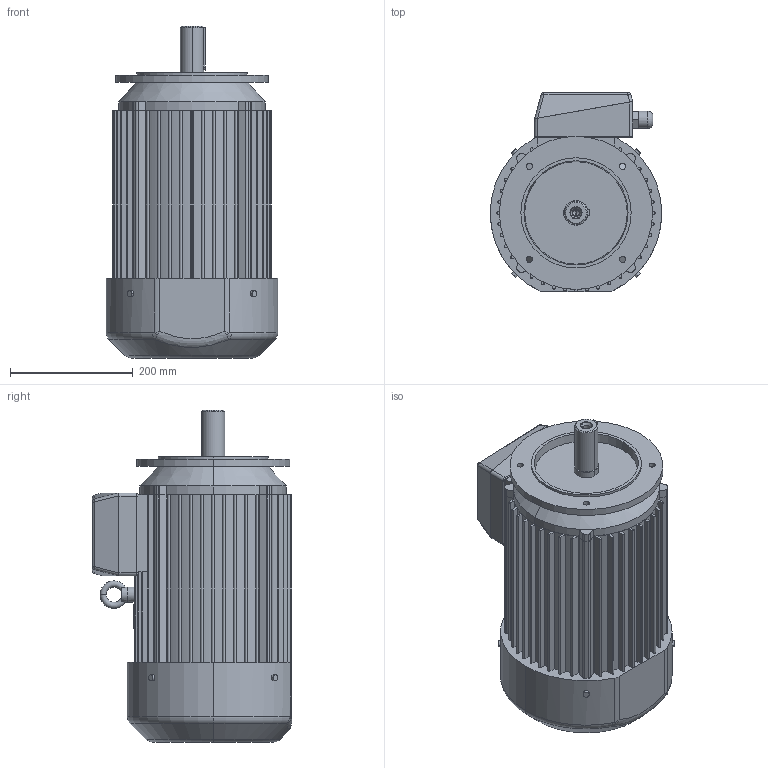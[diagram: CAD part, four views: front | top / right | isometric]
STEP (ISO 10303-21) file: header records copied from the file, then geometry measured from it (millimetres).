
FILE_DESCRIPTION (( 'STEP AP203' ), '1' );
FILE_NAME ('3SIEK132S;M-B14-C1.STEP', '2015-01-09T07:21:33', ( 'Indukta' ), ( 'Celma Indukta S.A.' ), 'SwSTEP 2.0', 'SolidWorks 2003064', '' );
FILE_SCHEMA (( 'CONFIG_CONTROL_DESIGN' ));
Length unit declared in the file: millimetre
Products named in the file (1): 3SIEK132S;M-B14-C1
Bounding box: 280 x 325 x 542 mm (x, y, z)
Volume: 24349866.7 mm3; surface area: 995903 mm2
Topology: 14 solids, 14 shells, 390 faces, 1017 edges, 652 vertices
Faces by surface type: cylinder 180, plane 169, torus 16, cone 16, bspline 5, sphere 4
Entity records: 15749 total; most frequent: CARTESIAN_POINT 5901, DIRECTION 2128, ORIENTED_EDGE 2018, EDGE_CURVE 1009, AXIS2_PLACEMENT_3D 778, VERTEX_POINT 652, LINE 572, VECTOR 572
